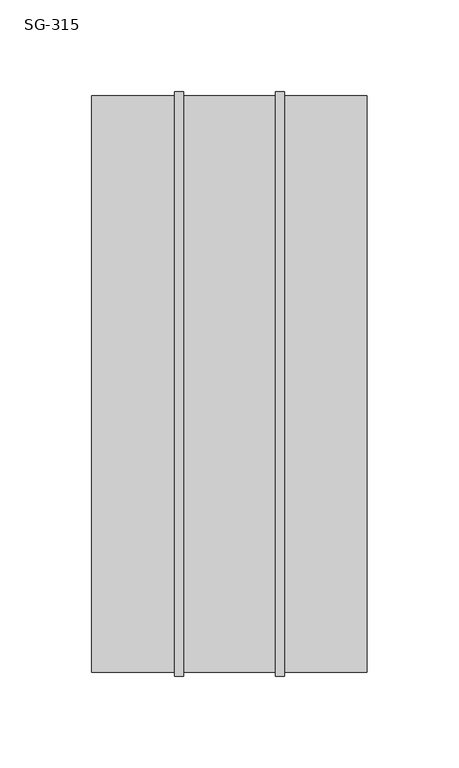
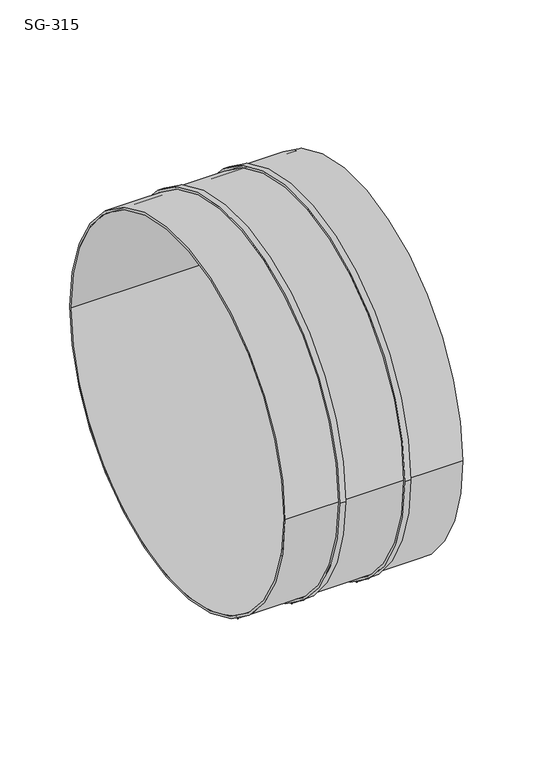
"""IFC4 building model written with IfcOpenShell, lengths in millimetres: damper geometry, СВ_ГибкаяВставка_КанальнаяКруглая_DN100-315_SG : SG-315."""

from ifc_helpers import new_model, si_unit, point, frame, origin, origin_2d, place, context, project, spatial, circle_curve, trimmed, segment, composite_curve, outline, extrude, source, transform, mapped, element, save


def sg_315_5ef0e3f3(model_context):
    return source(origin(), model_context, "Body", "SweptSolid", [
        extrude(outline(composite_curve([segment(trimmed(circle_curve(origin_2d(), 159.0), [point((-159.0, 0.0))], [point((159.0, 0.0))], False, "CARTESIAN"), True, "CONTINUOUS"), segment(trimmed(circle_curve(origin_2d(), 159.0), [point((159.0, 0.0))], [point((-159.0, 0.0))], False, "CARTESIAN"), True, "CONTINUOUS")], self_intersect=False), holes=[composite_curve([segment(trimmed(circle_curve(origin_2d(), 157.0), [point((-157.0, 0.0))], [point((157.0, 0.0))], True, "CARTESIAN"), True, "CONTINUOUS"), segment(trimmed(circle_curve(origin_2d(), 157.0), [point((157.0, 0.0))], [point((-157.0, 0.0))], True, "CARTESIAN"), True, "CONTINUOUS")], self_intersect=False)]), frame((25.0, 0.0, 0.0), z_axis=(1.0, 0.0, 0.0), x_axis=(0.0, 1.0, 0.0)), (0.0, 0.0, 1.0), 5.0),
        extrude(outline(composite_curve([segment(trimmed(circle_curve(origin_2d(), 159.0), [point((-159.0, 0.0))], [point((159.0, 0.0))], False, "CARTESIAN"), True, "CONTINUOUS"), segment(trimmed(circle_curve(origin_2d(), 159.0), [point((159.0, 0.0))], [point((-159.0, 0.0))], False, "CARTESIAN"), True, "CONTINUOUS")], self_intersect=False), holes=[composite_curve([segment(trimmed(circle_curve(origin_2d(), 157.0), [point((-157.0, 0.0))], [point((157.0, 0.0))], True, "CARTESIAN"), True, "CONTINUOUS"), segment(trimmed(circle_curve(origin_2d(), 157.0), [point((157.0, 0.0))], [point((-157.0, 0.0))], True, "CARTESIAN"), True, "CONTINUOUS")], self_intersect=False)]), frame((-30.0, 0.0, 0.0), z_axis=(1.0, 0.0, 0.0), x_axis=(0.0, 1.0, 0.0)), (0.0, 0.0, 1.0), 5.0),
        extrude(outline(composite_curve([segment(trimmed(circle_curve(origin_2d(), 157.0), [point((-157.0, 0.0))], [point((157.0, 0.0))], False, "CARTESIAN"), True, "CONTINUOUS"), segment(trimmed(circle_curve(origin_2d(), 157.0), [point((157.0, 0.0))], [point((-157.0, 0.0))], False, "CARTESIAN"), True, "CONTINUOUS")], self_intersect=False), holes=[composite_curve([segment(trimmed(circle_curve(origin_2d(), 155.0), [point((-155.0, 0.0))], [point((155.0, 0.0))], True, "CARTESIAN"), True, "CONTINUOUS"), segment(trimmed(circle_curve(origin_2d(), 155.0), [point((155.0, 0.0))], [point((-155.0, 0.0))], True, "CARTESIAN"), True, "CONTINUOUS")], self_intersect=False)]), frame((-75.0, 0.0, 0.0), z_axis=(1.0, 0.0, 0.0), x_axis=(0.0, 1.0, 0.0)), (0.0, 0.0, 1.0), 150.0),
    ])


if __name__ == "__main__":
    model = new_model("IFC4")
    model_context = context("Model", 3, world=origin())
    ifc_project = project(units=[si_unit("LENGTHUNIT", "METRE", prefix="MILLI")], contexts=[model_context])
    site = spatial("IfcSite", under=ifc_project)
    building = spatial("IfcBuilding", under=site)
    placement = place(None, origin())
    sg_315_shape = sg_315_5ef0e3f3(model_context)
    element("IfcDamper", 1, ObjectType="СВ_ГибкаяВставка_КанальнаяКруглая_DN100-315_SG : SG-315", at=placement, inside=building, context=model_context, shape_type="MappedRepresentation", body=[
        mapped(sg_315_shape, transform((0.0, 0.0, 0.0), x_axis=(1.0, 0.0, 0.0), y_axis=(0.0, 1.0, 0.0), z_axis=(0.0, 0.0, 1.0))),
    ])
    save(model, "model.ifc")
